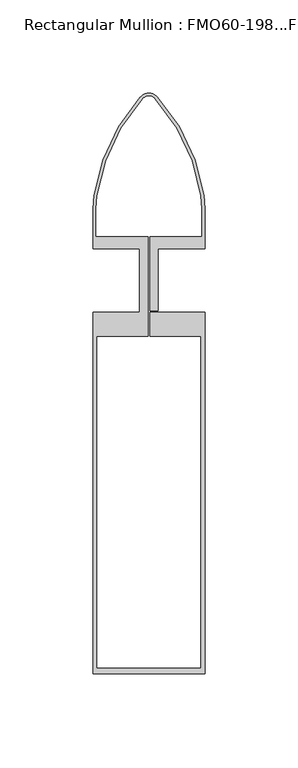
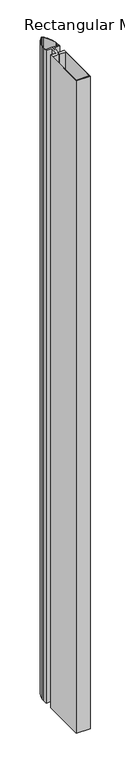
"""IFC4 building model written with IfcOpenShell, lengths in millimetres: member geometry, Rectangular Mullion : FMO60-198...FM60-80."""

from ifc_helpers import new_model, si_unit, frame, origin, place, context, project, spatial, polyline, circle_curve, source, transform, mapped, element, save
from ifc_brep_helpers import plane_surface, cylinder_surface, revolved_surface, advanced_brep


def rectangular_mullion_fmo60_198_fm60_80_f14fbcc1(model_context):
    return source(origin(), model_context, "Body", "AdvancedBrep", [
        advanced_brep(
        [(-29.4612692, 45.8318697, 0.0), (-30.0, 38.5118393, 0.0), (-30.0, 17.0, 0.0), (-4.9995097, 17.0, 0.0), (-4.9995097, -17.0, 0.0), (-30.0, -17.0, 0.0), (-30.0, -210.9990579, 0.0), (30.0, -210.9990579, 0.0), (30.0, -17.0, 0.0), (0.5, -17.0, 0.0), (0.5, -29.9945801, 0.0), (28.0, -29.9945801, 0.0), (28.0, -207.9990579, 0.0), (-28.0, -207.9990579, 0.0), (-28.0, -29.9945801, 0.0), (-0.5, -29.9945801, 0.0), (-0.5, 23.4439081, 0.0), (-28.6, 23.4439081, 0.0), (-28.6, 38.5118393, 0.0), (-28.0754927, 45.6327241, 0.0), (-3.6212321, 97.3854872, 0.0), (0.0, 99.1488206, 0.0), (3.6212321, 97.3854872, 0.0), (28.0763537, 45.6269089, 0.0), (28.6, 38.5118393, 0.0), (28.6000412, 23.4439081, 0.0), (0.5, 23.4439081, 0.0), (0.5, -16.2, 0.0), (5.0004903, -16.2, 0.0), (5.0004903, 17.0, 0.0), (30.0, 17.0, 0.0), (30.0, 38.5118393, 0.0), (29.4612692, 45.8318697, 0.0), (4.7233463, 98.2488206, 0.0), (0.0, 100.5488206, 0.0), (-4.7233463, 98.2488206, 0.0), (-29.4612692, 45.8318697, -3000.0), (-4.7233463, 98.2488206, -3000.0), (0.0, 100.5488206, -3000.0), (4.7233463, 98.2488206, -3000.0), (29.4612692, 45.8318697, -3000.0), (30.0, 38.5118393, -3000.0), (30.0, 17.0, -3000.0), (5.0004903, 17.0, -3000.0), (5.0004903, -16.2, -3000.0), (0.5, -16.2, -3000.0), (0.5, 23.4439081, -3000.0), (28.6000412, 23.4439081, -3000.0), (28.6000412, 38.5118393, -3000.0), (28.0754927, 45.6327241, -3000.0), (3.6212321, 97.3854872, -3000.0), (0.0, 99.1488206, -3000.0), (-3.6212321, 97.3854872, -3000.0), (-28.0763537, 45.6269089, -3000.0), (-28.6, 38.5118393, -3000.0), (-28.6, 23.4439081, -3000.0), (-0.5, 23.4439081, -3000.0), (-0.5, -29.9945801, -3000.0), (-28.0, -29.9945801, -3000.0), (-28.0, -207.9990579, -3000.0), (28.0, -207.9990579, -3000.0), (28.0, -29.9945801, -3000.0), (0.5, -29.9945801, -3000.0), (0.5, -17.0, -3000.0), (30.0, -17.0, -3000.0), (30.0, -210.9990579, -3000.0), (-30.0, -210.9990579, -3000.0), (-30.0, -17.0, -3000.0), (-4.9995097, -17.0, -3000.0), (-4.9995097, 17.0, -3000.0), (-30.0, 17.0, -3000.0), (-30.0, 38.5118393, -3000.0)],
        [
            (0, 1, circle_curve(frame((20.0, 38.5118393, 0.0), z_axis=(0.0, 0.0, 1.0), x_axis=(-1.0, 0.0, 0.0)), 50.0)),
            (1, 2),
            (2, 3),
            (3, 4),
            (4, 5),
            (5, 6),
            (6, 7),
            (7, 8),
            (8, 9),
            (9, 10),
            (10, 11),
            (11, 12),
            (12, 13),
            (13, 14),
            (14, 15),
            (15, 16),
            (16, 17),
            (17, 18),
            (18, 19, circle_curve(frame((20.0, 38.5118393, 0.0), z_axis=(0.0, 0.0, -1.0), x_axis=(-0.9892253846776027, 0.1464006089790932, 0.0)), 48.6)),
            (19, 20, circle_curve(frame((69.5008187, 31.1798368, 0.0), z_axis=(0.0, 0.0, -1.0), x_axis=(-0.7412956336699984, 0.6711786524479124, 0.0)), 98.6408763)),
            (20, 21, circle_curve(frame((0.0, 94.5488206, 0.0), z_axis=(0.0, 0.0, -1.0), x_axis=(0.0, 1.0, 0.0)), 4.6)),
            (21, 22, circle_curve(frame((0.0, 94.5488206, 0.0), z_axis=(0.0, 0.0, -1.0), x_axis=(0.7872243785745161, 0.6166666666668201, 0.0)), 4.6)),
            (22, 23, circle_curve(frame((-69.5008187, 31.1798368, 0.0), z_axis=(0.0, 0.0, -1.0), x_axis=(0.9892163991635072, 0.14646131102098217, 0.0)), 98.6408763)),
            (23, 24, circle_curve(frame((-20.0, 38.5118393, 0.0), z_axis=(0.0, 0.0, -1.0), x_axis=(1.0, 0.0, 0.0)), 48.6)),
            (24, 25),
            (25, 26),
            (26, 27),
            (27, 28),
            (28, 29),
            (29, 30),
            (30, 31),
            (31, 32, circle_curve(frame((-20.0, 38.5118393, 0.0), z_axis=(0.0, 0.0, 1.0), x_axis=(0.989225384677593, 0.14640060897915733, 0.0)), 50.0)),
            (32, 33, circle_curve(frame((-69.4612692, 31.1918088, 0.0), z_axis=(0.0, 0.0, 1.0), x_axis=(0.7418461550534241, 0.6705701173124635, 0.0)), 100.0)),
            (33, 34, circle_curve(frame((0.0, 94.5488206, 0.0), z_axis=(0.0, 0.0, 1.0), x_axis=(2.2597479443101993e-12, 1.0, 0.0)), 6.0)),
            (34, 35, circle_curve(frame((0.0, 94.5488206, 0.0), z_axis=(0.0, 0.0, 1.0), x_axis=(-0.7872243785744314, 0.6166666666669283, 0.0)), 6.0)),
            (35, 0, circle_curve(frame((69.4612692, 31.1918088, 0.0), z_axis=(0.0, 0.0, 1.0), x_axis=(-0.9892253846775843, 0.14640060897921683, 0.0)), 100.0)),
            (36, 37, circle_curve(frame((69.4612692, 31.1918088, -3000.0), z_axis=(0.0, 0.0, -1.0), x_axis=(-0.9892253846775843, 0.14640060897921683, 0.0)), 100.0)),
            (37, 38, circle_curve(frame((0.0, 94.5488206, -3000.0), z_axis=(0.0, 0.0, -1.0), x_axis=(-0.7872243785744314, 0.6166666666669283, 0.0)), 6.0)),
            (38, 39, circle_curve(frame((0.0, 94.5488206, -3000.0), z_axis=(0.0, 0.0, -1.0), x_axis=(2.2597479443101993e-12, 1.0, 0.0)), 6.0)),
            (39, 40, circle_curve(frame((-69.4612692, 31.1918088, -3000.0), z_axis=(0.0, 0.0, -1.0), x_axis=(0.7418461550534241, 0.6705701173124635, 0.0)), 100.0)),
            (40, 41, circle_curve(frame((-20.0, 38.5118393, -3000.0), z_axis=(0.0, 0.0, -1.0), x_axis=(0.989225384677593, 0.14640060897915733, 0.0)), 50.0)),
            (41, 42),
            (42, 43),
            (43, 44),
            (44, 45),
            (45, 46),
            (46, 47),
            (47, 48),
            (48, 49, circle_curve(frame((-20.0, 38.5118393, -3000.0), z_axis=(0.0, 0.0, 1.0), x_axis=(1.0, 0.0, 0.0)), 48.6)),
            (49, 50, circle_curve(frame((-69.5008187, 31.1798368, -3000.0), z_axis=(0.0, 0.0, 1.0), x_axis=(0.9892163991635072, 0.14646131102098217, 0.0)), 98.6408763)),
            (50, 51, circle_curve(frame((0.0, 94.5488206, -3000.0), z_axis=(0.0, 0.0, 1.0), x_axis=(0.7872243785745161, 0.6166666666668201, 0.0)), 4.6)),
            (51, 52, circle_curve(frame((0.0, 94.5488206, -3000.0), z_axis=(0.0, 0.0, 1.0), x_axis=(0.0, 1.0, 0.0)), 4.6)),
            (52, 53, circle_curve(frame((69.5008187, 31.1798368, -3000.0), z_axis=(0.0, 0.0, 1.0), x_axis=(-0.7412956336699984, 0.6711786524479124, 0.0)), 98.6408763)),
            (53, 54, circle_curve(frame((20.0, 38.5118393, -3000.0), z_axis=(0.0, 0.0, 1.0), x_axis=(-0.9892253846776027, 0.1464006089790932, 0.0)), 48.6)),
            (54, 55),
            (55, 56),
            (56, 57),
            (57, 58),
            (58, 59),
            (59, 60),
            (60, 61),
            (61, 62),
            (62, 63),
            (63, 64),
            (64, 65),
            (65, 66),
            (66, 67),
            (67, 68),
            (68, 69),
            (69, 70),
            (70, 71),
            (71, 36, circle_curve(frame((20.0, 38.5118393, -3000.0), z_axis=(0.0, 0.0, -1.0), x_axis=(-1.0, 0.0, 0.0)), 50.0)),
            (0, 36),
            (71, 1),
            (70, 2),
            (69, 3),
            (68, 4),
            (67, 5),
            (66, 6),
            (65, 7),
            (64, 8),
            (63, 9),
            (62, 10),
            (61, 11),
            (60, 12),
            (59, 13),
            (58, 14),
            (57, 15),
            (56, 16),
            (55, 17),
            (54, 18),
            (53, 19),
            (52, 20),
            (51, 21),
            (50, 22),
            (49, 23),
            (48, 24),
            (47, 25),
            (46, 26),
            (45, 27),
            (44, 28),
            (43, 29),
            (42, 30),
            (41, 31),
            (40, 32),
            (39, 33),
            (38, 34),
            (37, 35),
        ],
        [
            plane_surface(frame((0.0, -213.121098, 0.0), z_axis=(0.0, 0.0, 1.0), x_axis=(-1.0, 0.0, 0.0))),
            plane_surface(frame((0.0, -213.121098, -3000.0), z_axis=(0.0, 0.0, -1.0), x_axis=(-1.0, 0.0, 0.0))),
            cylinder_surface(frame((20.0, 38.5118393, 0.0), z_axis=(0.0, 0.0, 1.0), x_axis=(-1.0, 0.0, 0.0)), 50.0),
            plane_surface(frame((-30.0, 38.5118393, 0.0), z_axis=(-1.0, 0.0, 0.0), x_axis=(0.0, 0.0, -1.0))),
            plane_surface(frame((-30.0, 17.0, 0.0), z_axis=(0.0, -1.0, 0.0), x_axis=(0.0, 0.0, -1.0))),
            plane_surface(frame((-4.9995097, 17.0, 0.0), z_axis=(-1.0, 0.0, 0.0), x_axis=(0.0, 0.0, -1.0))),
            plane_surface(frame((-4.9995097, -17.0, 0.0), z_axis=(0.0, 1.0, 0.0), x_axis=(0.0, 0.0, -1.0))),
            plane_surface(frame((-30.0, -17.0, 0.0), z_axis=(-1.0, 0.0, 0.0), x_axis=(0.0, 0.0, -1.0))),
            plane_surface(frame((-30.0, -210.9990579, 0.0), z_axis=(0.0, -1.0, 0.0), x_axis=(0.0, 0.0, -1.0))),
            plane_surface(frame((30.0, -210.9990579, 0.0), z_axis=(1.0, 0.0, 0.0), x_axis=(0.0, 0.0, -1.0))),
            plane_surface(frame((30.0, -17.0, 0.0), z_axis=(0.0, 1.0, 0.0), x_axis=(0.0, 0.0, -1.0))),
            plane_surface(frame((0.5, -17.0, 0.0), z_axis=(-1.0, 0.0, 0.0), x_axis=(0.0, 0.0, -1.0))),
            plane_surface(frame((0.5, -29.9945801, 0.0), z_axis=(0.0, -1.0, 0.0), x_axis=(0.0, 0.0, -1.0))),
            plane_surface(frame((28.0, -29.9945801, 0.0), z_axis=(-1.0, 0.0, 0.0), x_axis=(0.0, 0.0, -1.0))),
            plane_surface(frame((28.0, -207.9990579, 0.0), z_axis=(0.0, 1.0, 0.0), x_axis=(0.0, 0.0, -1.0))),
            plane_surface(frame((-28.0, -207.9990579, 0.0), z_axis=(1.0, 0.0, 0.0), x_axis=(0.0, 0.0, -1.0))),
            plane_surface(frame((-28.0, -29.9945801, 0.0), z_axis=(0.0, -1.0, 0.0), x_axis=(0.0, 0.0, -1.0))),
            plane_surface(frame((-0.5, -29.9945801, 0.0), z_axis=(1.0, 0.0, 0.0), x_axis=(0.0, 0.0, -1.0))),
            plane_surface(frame((-0.5, 23.4439081, 0.0), z_axis=(0.0, 1.0, 0.0), x_axis=(0.0, 0.0, -1.0))),
            plane_surface(frame((-28.6, 23.4439081, 0.0), z_axis=(1.0, 0.0, 0.0), x_axis=(0.0, 0.0, -1.0))),
            revolved_surface(polyline([(-28.07635369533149, 45.62690889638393, -3000.000000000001), (-28.07635369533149, 45.62690889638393, 0.0)]), (20.0, 38.5118393, 0.0), (0.0, 0.0, -1.0000000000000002)),
            revolved_surface(polyline([(-3.621232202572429, 97.38548723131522, -3000.0), (-3.621232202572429, 97.38548723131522, 0.0)]), (69.5008187, 31.1798368, 0.0), (0.0, 0.0, -1.0)),
            revolved_surface(polyline([(0.0, 99.1488206, -3000.0), (0.0, 99.1488206, 0.0)]), (0.0, 94.5488206, 0.0), (0.0, 0.0, -1.0)),
            revolved_surface(polyline([(3.621232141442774, 97.38548726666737, -3000.000000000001), (3.621232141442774, 97.38548726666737, 0.0)]), (0.0, 94.5488206, 0.0), (0.0, 0.0, -1.0000000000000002)),
            revolved_surface(polyline([(28.076353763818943, 45.62690886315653, -3000.0), (28.076353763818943, 45.62690886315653, 0.0)]), (-69.5008187, 31.1798368, 0.0), (0.0, 0.0, -1.0)),
            revolved_surface(polyline([(28.6, 38.5118393, -3000.0), (28.6, 38.5118393, 0.0)]), (-20.0, 38.5118393, 0.0), (0.0, 0.0, -1.0)),
            plane_surface(frame((28.6000412, 38.5118393, 0.0), z_axis=(-1.0, 0.0, 0.0), x_axis=(0.0, 0.0, -1.0))),
            plane_surface(frame((28.6000412, 23.4439081, 0.0), z_axis=(0.0, 1.0, 0.0), x_axis=(0.0, 0.0, -1.0))),
            plane_surface(frame((0.5, 23.4439081, 0.0), z_axis=(-1.0, 0.0, 0.0), x_axis=(0.0, 0.0, -1.0))),
            plane_surface(frame((0.5, -16.2, 0.0), z_axis=(0.0, -1.0, 0.0), x_axis=(0.0, 0.0, -1.0))),
            plane_surface(frame((5.0004903, -16.2, 0.0), z_axis=(1.0, 0.0, 0.0), x_axis=(0.0, 0.0, -1.0))),
            plane_surface(frame((5.0004903, 17.0, 0.0), z_axis=(0.0, -1.0, 0.0), x_axis=(0.0, 0.0, -1.0))),
            plane_surface(frame((30.0, 17.0, 0.0), z_axis=(1.0, 0.0, 0.0), x_axis=(0.0, 0.0, -1.0))),
            cylinder_surface(frame((-20.0, 38.5118393, 0.0), z_axis=(0.0, 0.0, 1.0), x_axis=(0.989225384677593, 0.14640060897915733, 0.0)), 50.0),
            cylinder_surface(frame((-69.4612692, 31.1918088, 0.0), z_axis=(0.0, 0.0, 1.0), x_axis=(0.7418461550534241, 0.6705701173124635, 0.0)), 100.0),
            cylinder_surface(frame((0.0, 94.5488206, 0.0), z_axis=(0.0, 0.0, 1.0), x_axis=(2.2597479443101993e-12, 1.0, 0.0)), 6.0),
            cylinder_surface(frame((0.0, 94.5488206, 0.0), z_axis=(0.0, 0.0, 1.0), x_axis=(-0.7872243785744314, 0.6166666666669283, 0.0)), 6.0),
            cylinder_surface(frame((69.4612692, 31.1918088, 0.0), z_axis=(0.0, 0.0, 1.0), x_axis=(-0.9892253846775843, 0.14640060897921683, 0.0)), 100.0),
        ],
        [
            (0, [[1, 2, 3, 4, 5, 6, 7, 8, 9, 10, 11, 12, 13, 14, 15, 16, 17, 18, 19, 20, 21, 22, 23, 24, 25, 26, 27, 28, 29, 30, 31, 32, 33, 34, 35, 36]]),
            (1, [[37, 38, 39, 40, 41, 42, 43, 44, 45, 46, 47, 48, 49, 50, 51, 52, 53, 54, 55, 56, 57, 58, 59, 60, 61, 62, 63, 64, 65, 66, 67, 68, 69, 70, 71, 72]]),
            (2, [[-1, 73, -72, 74]]),
            (3, [[-2, -74, -71, 75]]),
            (4, [[-3, -75, -70, 76]]),
            (5, [[-4, -76, -69, 77]]),
            (6, [[-5, -77, -68, 78]]),
            (7, [[-6, -78, -67, 79]]),
            (8, [[-7, -79, -66, 80]]),
            (9, [[-8, -80, -65, 81]]),
            (10, [[-9, -81, -64, 82]]),
            (11, [[-10, -82, -63, 83]]),
            (12, [[-11, -83, -62, 84]]),
            (13, [[-12, -84, -61, 85]]),
            (14, [[-13, -85, -60, 86]]),
            (15, [[-14, -86, -59, 87]]),
            (16, [[-15, -87, -58, 88]]),
            (17, [[-16, -88, -57, 89]]),
            (18, [[-17, -89, -56, 90]]),
            (19, [[-18, -90, -55, 91]]),
            (20, [[-19, -91, -54, 92]]),
            (21, [[-20, -92, -53, 93]]),
            (22, [[-21, -93, -52, 94]]),
            (23, [[-22, -94, -51, 95]]),
            (24, [[-23, -95, -50, 96]]),
            (25, [[-24, -96, -49, 97]]),
            (26, [[-25, -97, -48, 98]]),
            (27, [[-26, -98, -47, 99]]),
            (28, [[-27, -99, -46, 100]]),
            (29, [[-28, -100, -45, 101]]),
            (30, [[-29, -101, -44, 102]]),
            (31, [[-30, -102, -43, 103]]),
            (32, [[-31, -103, -42, 104]]),
            (33, [[-32, -104, -41, 105]]),
            (34, [[-33, -105, -40, 106]]),
            (35, [[-34, -106, -39, 107]]),
            (36, [[-35, -107, -38, 108]]),
            (37, [[-36, -108, -37, -73]]),
        ],
    ),
    ])


if __name__ == "__main__":
    model = new_model("IFC4")
    model_context = context("Model", 3, world=origin())
    ifc_project = project(units=[si_unit("LENGTHUNIT", "METRE", prefix="MILLI")], contexts=[model_context])
    site = spatial("IfcSite", under=ifc_project)
    building = spatial("IfcBuilding", under=site)
    placement = place(None, origin())
    rectangular_mullion_fmo60_198_fm60_80_shape = rectangular_mullion_fmo60_198_fm60_80_f14fbcc1(model_context)
    element("IfcMember", 1, ObjectType="Rectangular Mullion : FMO60-198...FM60-80", at=placement, inside=building, context=model_context, shape_type="MappedRepresentation", body=[
        mapped(rectangular_mullion_fmo60_198_fm60_80_shape, transform((0.0, 0.0, 0.0), x_axis=(1.0, 0.0, 0.0), y_axis=(0.0, 1.0, 0.0), z_axis=(0.0, 0.0, 1.0))),
    ])
    save(model, "model.ifc")
